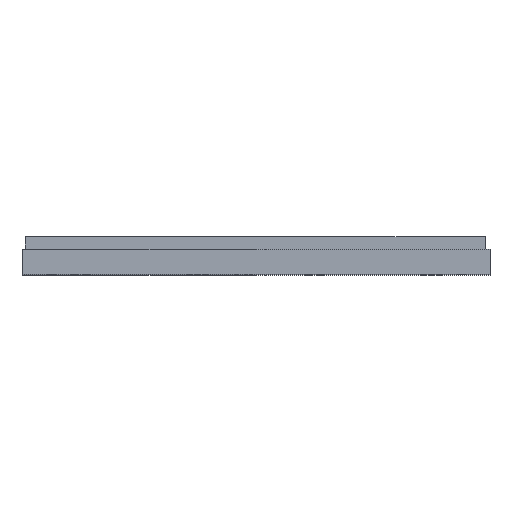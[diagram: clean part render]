
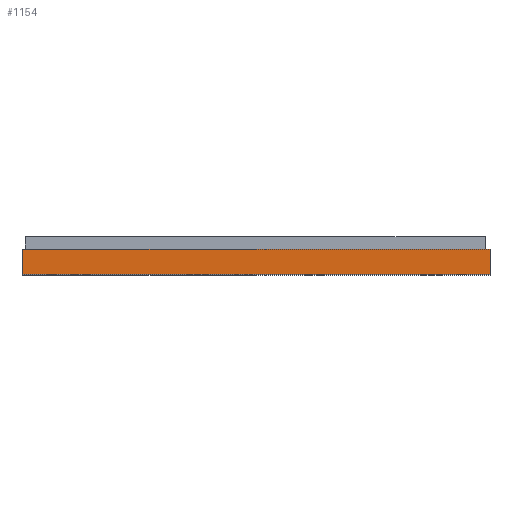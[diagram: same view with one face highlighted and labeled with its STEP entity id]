
A CAD part, top view. The second image highlights one B-rep face of the part: STEP entity #1154.
In plain terms, the highlighted planar face has unit normal (0, 0, 1).
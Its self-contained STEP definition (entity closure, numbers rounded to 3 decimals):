
#40 = DIRECTION ( 'NONE',  ( 0., -1., 0. ) ) ;
#84 = EDGE_CURVE ( 'NONE', #2014, #2785, #2759, .T. ) ;
#101 = EDGE_CURVE ( 'NONE', #1419, #2476, #755, .T. ) ;
#183 = ORIENTED_EDGE ( 'NONE', *, *, #1500, .F. ) ;
#224 = DIRECTION ( 'NONE',  ( 1., 0., 0. ) ) ;
#245 = DIRECTION ( 'NONE',  ( -1., 0., 0. ) ) ;
#256 = CARTESIAN_POINT ( 'NONE',  ( 327.833, 261.697, 299.139 ) ) ;
#489 = CARTESIAN_POINT ( 'NONE',  ( 159.833, 261.697, 299.139 ) ) ;
#590 = EDGE_CURVE ( 'NONE', #2476, #2785, #1875, .T. ) ;
#616 = CARTESIAN_POINT ( 'NONE',  ( 327.833, 252.697, 299.139 ) ) ;
#755 = LINE ( 'NONE', #1216, #1616 ) ;
#1028 = EDGE_LOOP ( 'NONE', ( #2063, #2545, #183, #1247 ) ) ;
#1154 = ADVANCED_FACE ( 'NONE', ( #2347 ), #2320, .F. ) ;
#1216 = CARTESIAN_POINT ( 'NONE',  ( 159.833, 261.697, 299.139 ) ) ;
#1247 = ORIENTED_EDGE ( 'NONE', *, *, #101, .T. ) ;
#1419 = VERTEX_POINT ( 'NONE', #489 ) ;
#1441 = DIRECTION ( 'NONE',  ( 0., 0., -1. ) ) ;
#1496 = DIRECTION ( 'NONE',  ( 1., 0., 0. ) ) ;
#1500 = EDGE_CURVE ( 'NONE', #1419, #2014, #1703, .T. ) ;
#1616 = VECTOR ( 'NONE', #40, 1000. ) ;
#1623 = DIRECTION ( 'NONE',  ( 0., -1., 0. ) ) ;
#1703 = LINE ( 'NONE', #1748, #2114 ) ;
#1748 = CARTESIAN_POINT ( 'NONE',  ( 159.833, 261.697, 299.139 ) ) ;
#1822 = VECTOR ( 'NONE', #224, 1000. ) ;
#1875 = LINE ( 'NONE', #3045, #1822 ) ;
#1880 = CARTESIAN_POINT ( 'NONE',  ( 159.833, 261.697, 299.139 ) ) ;
#2014 = VERTEX_POINT ( 'NONE', #256 ) ;
#2063 = ORIENTED_EDGE ( 'NONE', *, *, #590, .T. ) ;
#2075 = CARTESIAN_POINT ( 'NONE',  ( 159.833, 252.697, 299.139 ) ) ;
#2114 = VECTOR ( 'NONE', #1496, 1000. ) ;
#2320 = PLANE ( 'NONE',  #2598 ) ;
#2347 = FACE_OUTER_BOUND ( 'NONE', #1028, .T. ) ;
#2476 = VERTEX_POINT ( 'NONE', #2075 ) ;
#2545 = ORIENTED_EDGE ( 'NONE', *, *, #84, .F. ) ;
#2598 = AXIS2_PLACEMENT_3D ( 'NONE', #1880, #1441, #245 ) ;
#2759 = LINE ( 'NONE', #2994, #2913 ) ;
#2785 = VERTEX_POINT ( 'NONE', #616 ) ;
#2913 = VECTOR ( 'NONE', #1623, 1000. ) ;
#2994 = CARTESIAN_POINT ( 'NONE',  ( 327.833, 261.697, 299.139 ) ) ;
#3045 = CARTESIAN_POINT ( 'NONE',  ( 159.833, 252.697, 299.139 ) ) ;
